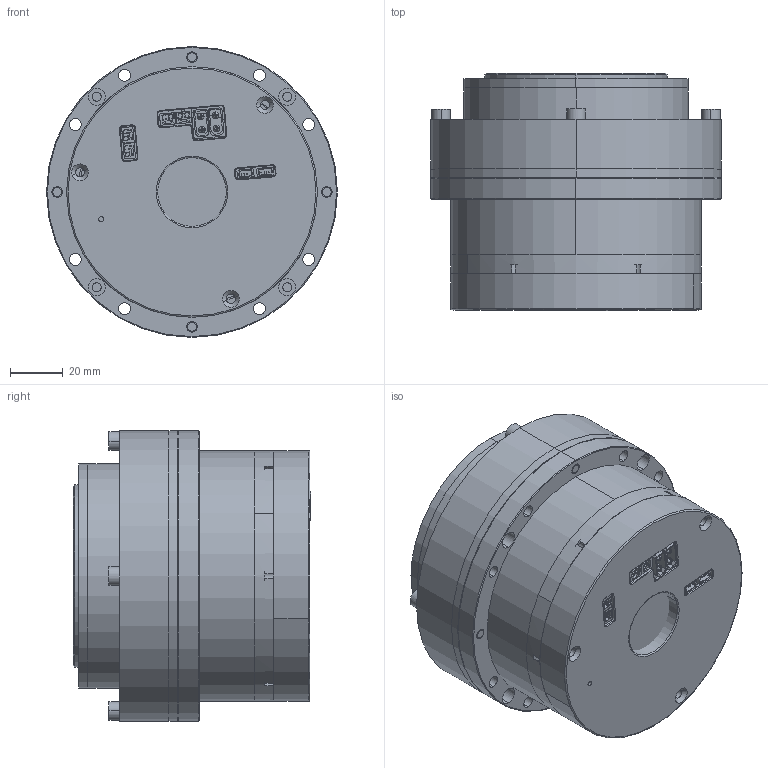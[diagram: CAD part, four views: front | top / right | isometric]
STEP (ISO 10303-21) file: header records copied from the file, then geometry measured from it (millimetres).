
FILE_DESCRIPTION (( 'STEP AP203' ), '1' );
FILE_NAME ('1MT.055.022（RH-25-100-E-N 一体化谐波减速模组-双编+ECAT）.STEP', '2024-11-04T01:43:41', ( '' ), ( '' ), 'SwSTEP 2.0', 'SolidWorks 2020', '' );
FILE_SCHEMA (( 'CONFIG_CONTROL_DESIGN' ));
Length unit declared in the file: millimetre
Products named in the file (1): 1MT.055.022（RH-25-100-E-N 一体化谐波减速模组-双编+ECAT）
Bounding box: 110 x 89.84 x 110 mm (x, y, z)
Surface area: 81745.2 mm2 (no closed solid volume)
Topology: 0 solids, 64 shells, 561 faces, 2635 edges, 2126 vertices
Faces by surface type: plane 313, cylinder 191, cone 35, bspline 16, torus 6
Entity records: 27471 total; most frequent: CARTESIAN_POINT 6201, DIRECTION 4456, ORIENTED_EDGE 3593, EDGE_CURVE 2635, VERTEX_POINT 2126, VECTOR 1630, LINE 1630, AXIS2_PLACEMENT_3D 1413
